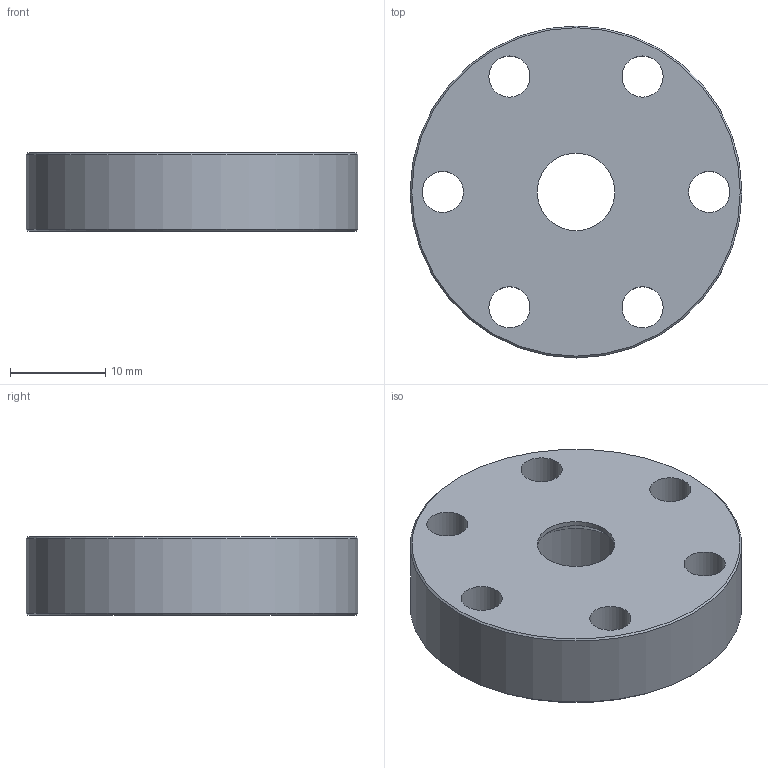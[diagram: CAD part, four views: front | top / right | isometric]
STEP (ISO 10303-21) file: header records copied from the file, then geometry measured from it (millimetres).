
FILE_DESCRIPTION(/* description */ (''),/* implementation_level */ '2;1');
FILE_NAME(/* name */ 'Check Valve Upper Body.step',/* time_stamp */ '2026-05-22T17:14:33-04:00',/* author */ (''),/* organization */ (''),/* preprocessor_version */ 'ST-DEVELOPER v20.1',/* originating_system */ 'Autodesk Translation Framework v15.8.0.0',/* authorisation */ '');
FILE_SCHEMA (('AUTOMOTIVE_DESIGN { 1 0 10303 214 3 1 1 }'));
Length unit declared in the file: inch
Products named in the file (2): Check Valve Upper Body; 9559K114_Ultra-Chemical-Resistant Rigid PTFE O-Ring
Assembly tree (1 placements, depth 2):
  Check Valve Upper Body
    9559K114_Ultra-Chemical-Resistant Rigid PTFE O-Ring
Bounding box: 34.8 x 34.8 x 8.2 mm (x, y, z)
Volume: 6084 mm3; surface area: 3559.3 mm2
Topology: 1 solids, 1 shells, 19 faces, 41 edges, 27 vertices
Faces by surface type: cylinder 11, plane 5, cone 3
Full cylindrical faces by diameter (mm): 4.318 x6, 8.128 x1, 11.938 x1, 15.596 x1, 20.726 x1, 34.798 x1
Entity records: 624 total; most frequent: DIRECTION 112, CARTESIAN_POINT 90, ORIENTED_EDGE 82, AXIS2_PLACEMENT_3D 49, EDGE_CURVE 41, EDGE_LOOP 36, CIRCLE 27, VERTEX_POINT 27
